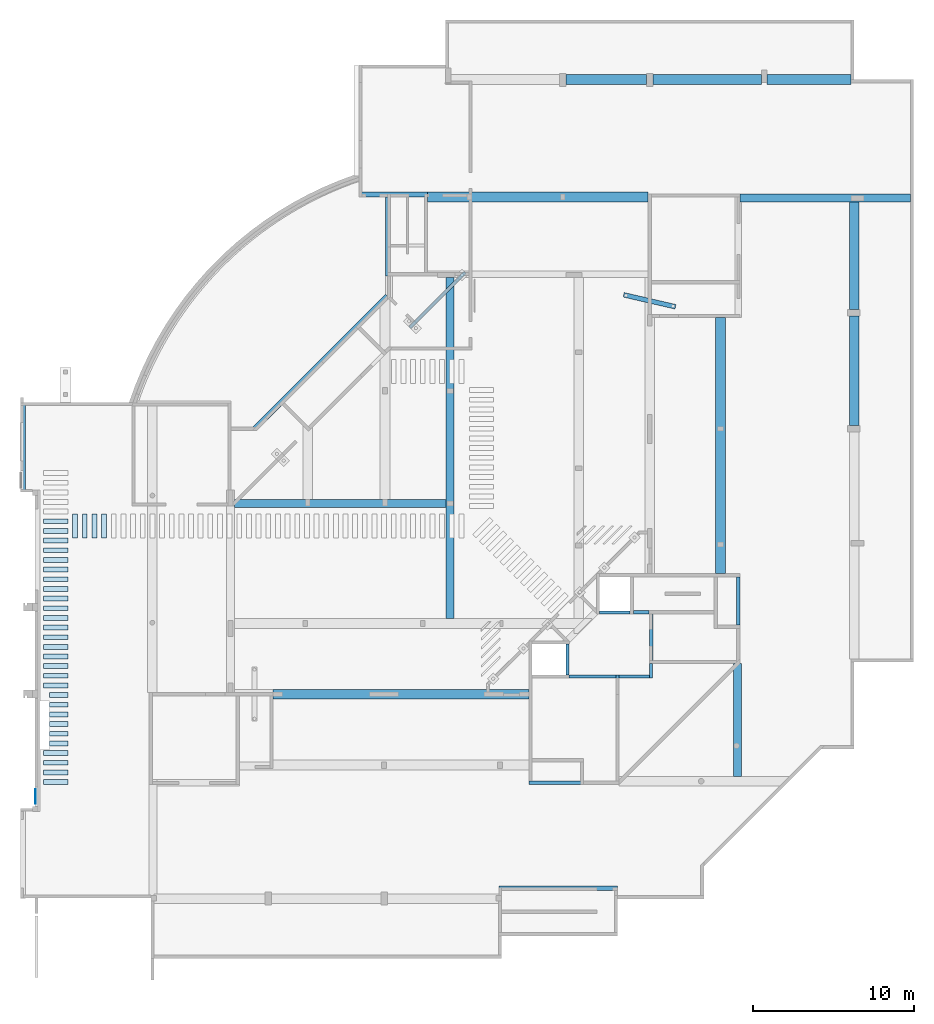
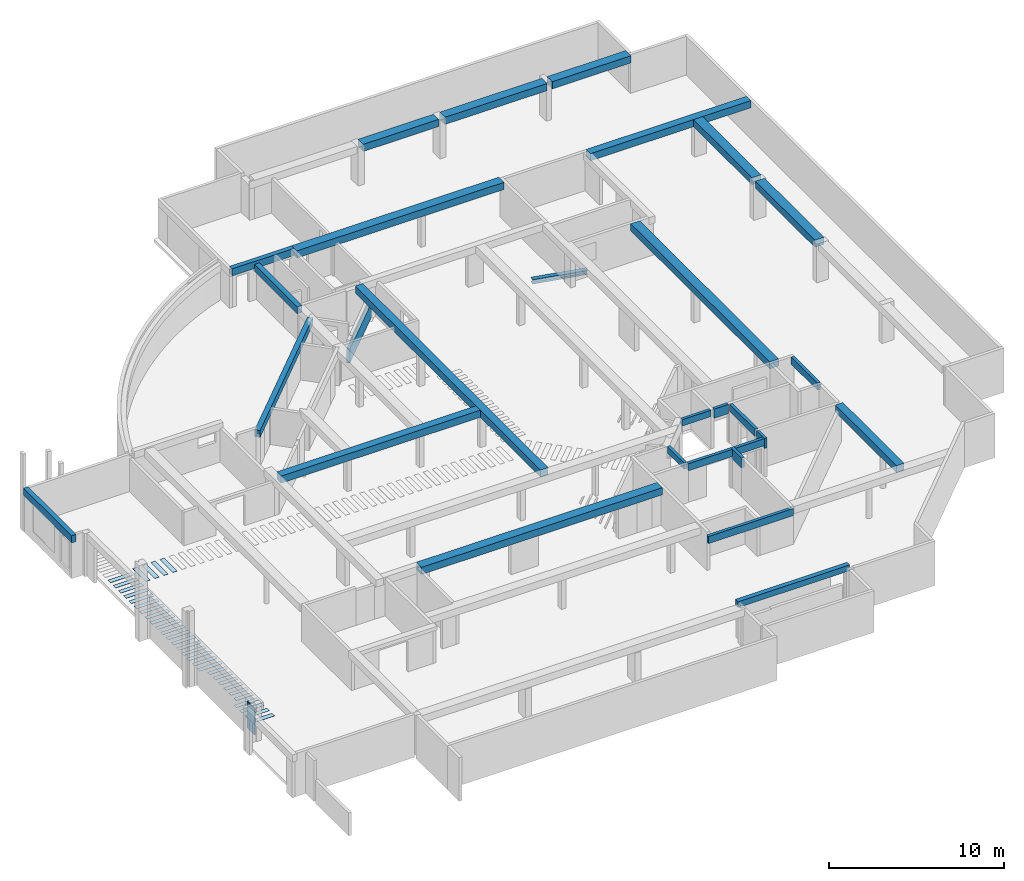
# One storey, part 2 of 12: 32 slabs, 29 beams, 1 plate.
"""IFC4X3_ADD2 building model written with IfcOpenShell, lengths in millimetres."""

from ifc_helpers import new_model, si_unit, direction, frame, frame_2d, origin_with_axes, origin_2d_with_axis, place, context, subcontext, project, spatial, polyline, rectangle, outline, extrude, source, transform, mapped, material, type_object, type_shapes, element, save


model = new_model("IFC4X3_ADD2")

# Units and contexts
model_context = context("Model", 3, precision=1e-05, world=origin_with_axes(), true_north=direction((0.0, 1.0)))
body_context = subcontext(model_context, "Body", "Model", "MODEL_VIEW")
ifc_project = project(units=[si_unit("LENGTHUNIT", "METRE", prefix="MILLI"), si_unit("AREAUNIT", "SQUARE_METRE"), si_unit("VOLUMEUNIT", "CUBIC_METRE"), si_unit("PLANEANGLEUNIT", "RADIAN"), si_unit("TIMEUNIT", "SECOND"), si_unit("MASSUNIT", "GRAM")], contexts=[model_context])

# Site, building, storey
site_placement = place(None, origin_with_axes())
site = spatial("IfcSite", under=ifc_project, at=site_placement, Name="Site", CompositionType="ELEMENT")
building_placement = place(site_placement, origin_with_axes())
building = spatial("IfcBuilding", under=site, at=building_placement, Name="IFC Building Story")
storey_placement = place(building_placement, frame((0.0, 0.0, -5940.0), z_axis=(0.0, 0.0, 1.0), x_axis=(1.0, 0.0, 0.0)))
storey = spatial("IfcBuildingStorey", under=building, at=storey_placement, Name="K20", Elevation=-5940.0)

# Beams
ifc_material_1 = material(Name="BB_Beton_Bestaand")
beam_type_1 = type_object("IfcBeamType", Name="BB_XX_Betonbalk_ rechthoekig_ center-center_SFB_200 x 500 mm", PredefinedType="NOTDEFINED")
shared_shape_1 = source(origin_with_axes(), body_context, "Body", "SweptSolid", [
    extrude(rectangle(XDim=5599.999999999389, YDim=200.0, at=origin_2d_with_axis()), frame((-17300.00000000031, 7099.999999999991, -3940.0), z_axis=(0.0, 0.0, 1.0), x_axis=(1.0, 0.0, 0.0)), (0.0, 0.0, 1.0), 500.0),
])
type_shapes(beam_type_1, [shared_shape_1])
beam_1_placement = place(storey_placement, frame((0.0, 0.0, 5940.0), z_axis=(0.0, 0.0, 1.0), x_axis=(1.0, 0.0, 0.0)))
element("IfcBeam", 1, at=beam_1_placement, inside=storey, type_object=beam_type_1, material=ifc_material_1, Name="BB_XX_Betonbalk, rechthoekig, center-center_SFB:200 x 500 mm", ObjectType="200 x 500 mm", PredefinedType="BEAM", context=body_context, shape_type="MappedRepresentation", body=[
    mapped(shared_shape_1, transform((0.0, 0.0, 0.0))),
])
beam_type_2 = type_object("IfcBeamType", Name="BB_XX_Betonbalk_ rechthoekig_ center-center_SFB_500 x 500 mm1", PredefinedType="NOTDEFINED")
shared_shape_2 = source(origin_with_axes(), body_context, "Body", "SweptSolid", [
    extrude(rectangle(XDim=6999.99999999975, YDim=500.0, at=frame_2d((0.0, 0.0), x_axis=(0.0, 1.0))), frame((-7149.999999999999, 11000.00000000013, -3740.0), z_axis=(0.0, 0.0, 1.0), x_axis=(1.0, 0.0, 0.0)), (0.0, 0.0, 1.0), 500.0),
])
type_shapes(beam_type_2, [shared_shape_2])
beam_2_placement = place(storey_placement, frame((0.0, 0.0, 5940.0), z_axis=(0.0, 0.0, 1.0), x_axis=(1.0, 0.0, 0.0)))
element("IfcBeam", 2, at=beam_2_placement, inside=storey, type_object=beam_type_2, material=ifc_material_1, Name="BB_XX_Betonbalk, rechthoekig, center-center_SFB:500 x 500 mm", ObjectType="500 x 500 mm", PredefinedType="BEAM", context=body_context, shape_type="MappedRepresentation", body=[
    mapped(shared_shape_2, transform((0.0, 0.0, 0.0))),
])
beam_type_3 = type_object("IfcBeamType", Name="BB_XX_Betonbalk_ rechthoekig_ center-center_SFB_190 x 450 mm", PredefinedType="NOTDEFINED")
shared_shape_3 = source(origin_with_axes(), body_context, "Body", "SweptSolid", [
    extrude(rectangle(XDim=1900.0, YDim=190.0, at=origin_2d_with_axis()), frame((0.0, 0.0, -225.0), z_axis=(0.0, 0.0, 1.0), x_axis=(1.0, 0.0, 0.0)), (0.0, 0.0, 1.0), 450.0),
])
type_shapes(beam_type_3, [shared_shape_3])
beam_3_placement = place(storey_placement, frame((-14765.0, 17695.0, 2475.0), z_axis=(0.0, 0.0, 1.0), x_axis=(-1.0, 0.0, 0.0)))
element("IfcBeam", 3, at=beam_3_placement, inside=storey, type_object=beam_type_3, material=ifc_material_1, Name="BB_XX_Betonbalk, rechthoekig, center-center_SFB:190 x 450 mm", ObjectType="190 x 450 mm", PredefinedType="BEAM", context=body_context, shape_type="MappedRepresentation", body=[
    mapped(shared_shape_3, transform((0.0, 0.0, 0.0))),
])
beam_type_4 = type_object("IfcBeamType", Name="BB_XX_Betonbalk_ rechthoekig_ center-center_SFB_200 x 500 mm1", PredefinedType="NOTDEFINED")
shared_shape_4 = source(origin_with_axes(), body_context, "Body", "SweptSolid", [
    extrude(rectangle(XDim=2899.99999999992, YDim=200.0, at=origin_2d_with_axis()), frame((-4.001776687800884e-11, 0.0, -250.0), z_axis=(0.0, 0.0, 1.0), x_axis=(1.0, 0.0, 0.0)), (0.0, 0.0, 1.0), 500.0),
])
type_shapes(beam_type_4, [shared_shape_4])
beam_4_placement = place(storey_placement, frame((-12500.0, 16150.0, 2450.0), z_axis=(0.0, 0.0, 1.0), x_axis=(0.0, -1.0, 0.0)))
element("IfcBeam", 4, at=beam_4_placement, inside=storey, type_object=beam_type_4, material=ifc_material_1, Name="BB_XX_Betonbalk, rechthoekig, center-center_SFB:200 x 500 mm", ObjectType="200 x 500 mm", PredefinedType="BEAM", context=body_context, shape_type="MappedRepresentation", body=[
    mapped(shared_shape_4, transform((0.0, 0.0, 0.0))),
])
beam_type_5 = type_object("IfcBeamType", Name="BB_XX_Betonbalk_ rechthoekig_ center-center_SFB_200 x 500 mm3", PredefinedType="NOTDEFINED")
shared_shape_5 = source(origin_with_axes(), body_context, "Body", "SweptSolid", [
    extrude(rectangle(XDim=2899.99999999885, YDim=200.0, at=origin_2d_with_axis()), frame((-5.750280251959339e-10, 0.0, -250.0), z_axis=(0.0, 0.0, 1.0), x_axis=(1.0, 0.0, 0.0)), (0.0, 0.0, 1.0), 500.0),
])
type_shapes(beam_type_5, [shared_shape_5])
beam_5_placement = place(storey_placement, frame((-16150.0, 13715.0, 2450.0), z_axis=(0.0, 0.0, 1.0), x_axis=(1.0, 0.0, 0.0)))
element("IfcBeam", 5, at=beam_5_placement, inside=storey, type_object=beam_type_5, material=ifc_material_1, Name="BB_XX_Betonbalk, rechthoekig, center-center_SFB:200 x 500 mm", ObjectType="200 x 500 mm", PredefinedType="BEAM", context=body_context, shape_type="MappedRepresentation", body=[
    mapped(shared_shape_5, transform((0.0, 0.0, 0.0))),
])
beam_type_6 = type_object("IfcBeamType", Name="BB_XX_Betonbalk_ rechthoekig_ center-center_SFB_200 x 700 mm", PredefinedType="NOTDEFINED")
shared_shape_6 = source(origin_with_axes(), body_context, "Body", "SweptSolid", [
    extrude(rectangle(XDim=1214.9999999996, YDim=200.0, at=frame_2d((0.0, 0.0), x_axis=(0.0, 1.0))), frame((-14600.0, 13207.4999999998, -3940.0), z_axis=(0.0, 0.0, 1.0), x_axis=(1.0, 0.0, 0.0)), (0.0, 0.0, 1.0), 700.0),
])
type_shapes(beam_type_6, [shared_shape_6])
beam_6_placement = place(storey_placement, frame((0.0, 0.0, 5940.0), z_axis=(0.0, 0.0, 1.0), x_axis=(1.0, 0.0, 0.0)))
element("IfcBeam", 6, at=beam_6_placement, inside=storey, type_object=beam_type_6, material=ifc_material_1, Name="BB_XX_Betonbalk, rechthoekig, center-center_SFB:200 x 700 mm", ObjectType="200 x 700 mm", PredefinedType="BEAM", context=body_context, shape_type="MappedRepresentation", body=[
    mapped(shared_shape_6, transform((0.0, 0.0, 0.0))),
])
beam_type_7 = type_object("IfcBeamType", Name="BB_XX_Betonbalk_ rechthoekig_ center-center_SFB_200 x 500 mm5", PredefinedType="NOTDEFINED")
shared_shape_7 = source(origin_with_axes(), body_context, "Body", "SweptSolid", [
    extrude(rectangle(XDim=1900.00000000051, YDim=200.0, at=origin_2d_with_axis()), frame((2.549995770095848e-10, 0.0, -250.0), z_axis=(0.0, 0.0, 1.0), x_axis=(1.0, 0.0, 0.0)), (0.0, 0.0, 1.0), 500.0),
])
type_shapes(beam_type_7, [shared_shape_7])
beam_7_placement = place(storey_placement, frame((-13550.0, 13715.0, 2450.0), z_axis=(0.0, 0.0, 1.0), x_axis=(1.0, 0.0, 0.0)))
element("IfcBeam", 7, at=beam_7_placement, inside=storey, type_object=beam_type_7, material=ifc_material_1, Name="BB_XX_Betonbalk, rechthoekig, center-center_SFB:200 x 500 mm", ObjectType="200 x 500 mm", PredefinedType="BEAM", context=body_context, shape_type="MappedRepresentation", body=[
    mapped(shared_shape_7, transform((0.0, 0.0, 0.0))),
])
beam_type_8 = type_object("IfcBeamType", Name="BB_XX_Betonbalk_ rechthoekig_ center-center_SFB_190 x 700 mm", PredefinedType="NOTDEFINED")
shared_shape_8 = source(origin_with_axes(), body_context, "Body", "SweptSolid", [
    extrude(rectangle(XDim=885.000000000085, YDim=190.0, at=origin_2d_with_axis()), frame((0.0, 0.0, -350.0), z_axis=(0.0, 0.0, 1.0), x_axis=(1.0, 0.0, 0.0)), (0.0, 0.0, 1.0), 700.0),
])
type_shapes(beam_type_8, [shared_shape_8])
beam_8_placement = place(storey_placement, frame((-12505.0, 14057.4999999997, 2350.0), z_axis=(0.0, 0.0, 1.0), x_axis=(0.0, -1.0, 0.0)))
element("IfcBeam", 8, at=beam_8_placement, inside=storey, type_object=beam_type_8, material=ifc_material_1, Name="BB_XX_Betonbalk, rechthoekig, center-center_SFB:190 x 700 mm", ObjectType="190 x 700 mm", PredefinedType="BEAM", context=body_context, shape_type="MappedRepresentation", body=[
    mapped(shared_shape_8, transform((0.0, 0.0, 0.0))),
])
beam_type_9 = type_object("IfcBeamType", Name="BB_XX_Betonbalk_ rechthoekig_ center-center_SFB_200 x 640 mm", PredefinedType="NOTDEFINED")
shared_shape_9 = source(origin_with_axes(), body_context, "Body", "SweptSolid", [
    extrude(rectangle(XDim=960.0000000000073, YDim=200.0, at=origin_2d_with_axis()), frame((-13135.0, 17700.0, -3880.0), z_axis=(0.0, 0.0, 1.0), x_axis=(1.0, 0.0, 0.0)), (0.0, 0.0, 1.0), 639.9999999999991),
])
type_shapes(beam_type_9, [shared_shape_9])
beam_9_placement = place(storey_placement, frame((0.0, 0.0, 5940.0), z_axis=(0.0, 0.0, 1.0), x_axis=(1.0, 0.0, 0.0)))
element("IfcBeam", 9, at=beam_9_placement, inside=storey, type_object=beam_type_9, material=ifc_material_1, Name="BB_XX_Betonbalk, rechthoekig, center-center_SFB:200 x 640 mm", ObjectType="200 x 640 mm", PredefinedType="BEAM", context=body_context, shape_type="MappedRepresentation", body=[
    mapped(shared_shape_9, transform((0.0, 0.0, 0.0))),
])
beam_type_10 = type_object("IfcBeamType", Name="BB_XX_Betonbalk_ rechthoekig_ center-center_SFB_600 x 500 mm5", PredefinedType="NOTDEFINED")
shared_shape_10 = source(origin_with_axes(), body_context, "Body", "SweptSolid", [
    extrude(rectangle(XDim=15900.0000000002, YDim=599.9999999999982, at=origin_2d_with_axis()), frame((-28049.9999999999, 12599.99999999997, -3740.0), z_axis=(0.0, 0.0, 1.0), x_axis=(1.0, 0.0, 0.0)), (0.0, 0.0, 1.0), 500.0),
])
type_shapes(beam_type_10, [shared_shape_10])
beam_10_placement = place(storey_placement, frame((0.0, 0.0, 5940.0), z_axis=(0.0, 0.0, 1.0), x_axis=(1.0, 0.0, 0.0)))
element("IfcBeam", 10, at=beam_10_placement, inside=storey, type_object=beam_type_10, material=ifc_material_1, Name="BB_XX_Betonbalk, rechthoekig, center-center_SFB:600 x 500 mm", ObjectType="600 x 500 mm", PredefinedType="BEAM", context=body_context, shape_type="MappedRepresentation", body=[
    mapped(shared_shape_10, transform((0.0, 0.0, 0.0))),
])
beam_type_11 = type_object("IfcBeamType", Name="BB_XX_Betonbalk_ rechthoekig_ center-center_SFB_500 x 500 mm5", PredefinedType="NOTDEFINED")
shared_shape_11 = source(origin_with_axes(), body_context, "Body", "SweptSolid", [
    extrude(rectangle(XDim=13150.0000000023, YDim=500.0, at=origin_2d_with_axis()), frame((-31824.99999999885, 24449.99999999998, -3740.0), z_axis=(0.0, 0.0, 1.0), x_axis=(1.0, 0.0, 0.0)), (0.0, 0.0, 1.0), 500.0),
])
type_shapes(beam_type_11, [shared_shape_11])
beam_11_placement = place(storey_placement, frame((0.0, 0.0, 5940.0), z_axis=(0.0, 0.0, 1.0), x_axis=(1.0, 0.0, 0.0)))
element("IfcBeam", 11, at=beam_11_placement, inside=storey, type_object=beam_type_11, material=ifc_material_1, Name="BB_XX_Betonbalk, rechthoekig, center-center_SFB:500 x 500 mm", ObjectType="500 x 500 mm", PredefinedType="BEAM", context=body_context, shape_type="MappedRepresentation", body=[
    mapped(shared_shape_11, transform((0.0, 0.0, 0.0))),
])
beam_type_12 = type_object("IfcBeamType", Name="BB_XX_Betonbalk_ rechthoekig_ center-center_SFB_500 x 500 mm7", PredefinedType="NOTDEFINED")
shared_shape_12 = source(origin_with_axes(), body_context, "Body", "SweptSolid", [
    extrude(rectangle(XDim=21200.0000000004, YDim=500.0, at=frame_2d((0.0, 0.0), x_axis=(0.0, 1.0))), frame((-25000.0, 27899.9999999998, -3740.0), z_axis=(0.0, 0.0, 1.0), x_axis=(1.0, 0.0, 0.0)), (0.0, 0.0, 1.0), 500.0),
])
type_shapes(beam_type_12, [shared_shape_12])
beam_12_placement = place(storey_placement, frame((0.0, 0.0, 5940.0), z_axis=(0.0, 0.0, 1.0), x_axis=(1.0, 0.0, 0.0)))
element("IfcBeam", 12, at=beam_12_placement, inside=storey, type_object=beam_type_12, material=ifc_material_1, Name="BB_XX_Betonbalk, rechthoekig, center-center_SFB:500 x 500 mm", ObjectType="500 x 500 mm", PredefinedType="BEAM", context=body_context, shape_type="MappedRepresentation", body=[
    mapped(shared_shape_12, transform((0.0, 0.0, 0.0))),
])
beam_type_13 = type_object("IfcBeamType", Name="BB_XX_Betonbalk_ rechthoekig_ center-center_SFB_320 x 490 mm1", PredefinedType="NOTDEFINED")
shared_shape_13 = source(origin_with_axes(), body_context, "Body", "SweptSolid", [
    extrude(rectangle(XDim=11656.1118172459, YDim=319.9999999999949, at=frame_2d((0.0, 0.0), x_axis=(0.7071067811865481, 0.7071067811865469))), frame((-33021.05785412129, 33218.21054734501, -3930.0), z_axis=(0.0, 0.0, 1.0), x_axis=(1.0, 0.0, 0.0)), (0.0, 0.0, 1.0), 490.000000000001),
])
type_shapes(beam_type_13, [shared_shape_13])
beam_13_placement = place(storey_placement, frame((0.0, 0.0, 5940.0), z_axis=(0.0, 0.0, 1.0), x_axis=(1.0, 0.0, 0.0)))
element("IfcBeam", 13, at=beam_13_placement, inside=storey, type_object=beam_type_13, material=ifc_material_1, Name="BB_XX_Betonbalk, rechthoekig, center-center_SFB:320 x 490 mm", ObjectType="320 x 490 mm", PredefinedType="BEAM", context=body_context, shape_type="MappedRepresentation", body=[
    mapped(shared_shape_13, transform((0.0, 0.0, 0.0))),
])
beam_type_14 = type_object("IfcBeamType", Name="BB_XX_Betonbalk_ rechthoekig_ center-center_SFB_600 x 500 mm15", PredefinedType="NOTDEFINED")
shared_shape_14 = source(origin_with_axes(), body_context, "Body", "SweptSolid", [
    extrude(rectangle(XDim=13699.9959341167, YDim=600.0, at=origin_2d_with_axis()), frame((-19550.00203294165, 43499.99999999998, -3740.0), z_axis=(0.0, 0.0, 1.0), x_axis=(1.0, 0.0, 0.0)), (0.0, 0.0, 1.0), 500.0),
])
type_shapes(beam_type_14, [shared_shape_14])
beam_14_placement = place(storey_placement, frame((0.0, 0.0, 5940.0), z_axis=(0.0, 0.0, 1.0), x_axis=(1.0, 0.0, 0.0)))
element("IfcBeam", 14, at=beam_14_placement, inside=storey, type_object=beam_type_14, material=ifc_material_1, Name="BB_XX_Betonbalk, rechthoekig, center-center_SFB:600 x 500 mm", ObjectType="600 x 500 mm", PredefinedType="BEAM", context=body_context, shape_type="MappedRepresentation", body=[
    mapped(shared_shape_14, transform((0.0, 0.0, 0.0))),
])
beam_type_15 = type_object("IfcBeamType", Name="BB_XX_Betonbalk_ rechthoekig_ center-center_SFB_300 x 500 mm1", PredefinedType="NOTDEFINED")
shared_shape_15 = source(origin_with_axes(), body_context, "Body", "SweptSolid", [
    extrude(rectangle(XDim=4099.999999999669, YDim=300.0, at=origin_2d_with_axis()), frame((-28450.00000000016, 43649.99999999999, -3740.0), z_axis=(0.0, 0.0, 1.0), x_axis=(1.0, 0.0, 0.0)), (0.0, 0.0, 1.0), 500.0),
])
type_shapes(beam_type_15, [shared_shape_15])
beam_15_placement = place(storey_placement, frame((0.0, 0.0, 5940.0), z_axis=(0.0, 0.0, 1.0), x_axis=(1.0, 0.0, 0.0)))
element("IfcBeam", 15, at=beam_15_placement, inside=storey, type_object=beam_type_15, material=ifc_material_1, Name="BB_XX_Betonbalk, rechthoekig, center-center_SFB:300 x 500 mm", ObjectType="300 x 500 mm", PredefinedType="BEAM", context=body_context, shape_type="MappedRepresentation", body=[
    mapped(shared_shape_15, transform((0.0, 0.0, 0.0))),
])
beam_type_16 = type_object("IfcBeamType", Name="BB_XX_Betonbalk_ rechthoekig_ center-center_SFB_320 x 490 mm5", PredefinedType="NOTDEFINED")
shared_shape_16 = source(origin_with_axes(), body_context, "Body", "SweptSolid", [
    extrude(outline(polyline([(-226.6666666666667, 3333.336043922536), (263.3333333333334, 3333.336043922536), (263.3333333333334, -1566.668021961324), (-36.66666666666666, -1566.668021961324), (-36.66666666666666, -1766.668021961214), (-226.6666666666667, -1766.668021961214), (-226.6666666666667, 3333.336043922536)])), frame((0.0, 3333.336043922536, 226.6666666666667), z_axis=(1.0, 0.0, 0.0), x_axis=(0.0, 0.0, 1.0)), (0.0, 0.0, 1.0), 320.0),
])
type_shapes(beam_type_16, [shared_shape_16])
beam_16_placement = place(storey_placement, frame((-29020.0, 38599.9959341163, 2010.0), z_axis=(0.0, 0.0, 1.0), x_axis=(1.0, 0.0, 0.0)))
element("IfcBeam", 16, at=beam_16_placement, inside=storey, type_object=beam_type_16, material=ifc_material_1, Name="BB_XX_Betonbalk, rechthoekig, center-center_SFB:320 x 490 mm", ObjectType="320 x 490 mm 2", PredefinedType="BEAM", context=body_context, shape_type="MappedRepresentation", body=[
    mapped(shared_shape_16, transform((0.0, 0.0, 0.0))),
])
beam_type_17 = type_object("IfcBeamType", Name="BB_XX_Betonbalk_ rechthoekig_ center-center_SFB_600 x 500 mm21", PredefinedType="NOTDEFINED")
shared_shape_17 = source(origin_with_axes(), body_context, "Body", "SweptSolid", [
    extrude(rectangle(XDim=15900.0000000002, YDim=600.0, at=frame_2d((0.0, 0.0), x_axis=(0.0, 1.0))), frame((-8200.0, 28049.9999999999, -3740.0), z_axis=(0.0, 0.0, 1.0), x_axis=(1.0, 0.0, 0.0)), (0.0, 0.0, 1.0), 500.0),
])
type_shapes(beam_type_17, [shared_shape_17])
beam_17_placement = place(storey_placement, frame((0.0, 0.0, 5940.0), z_axis=(0.0, 0.0, 1.0), x_axis=(1.0, 0.0, 0.0)))
element("IfcBeam", 17, at=beam_17_placement, inside=storey, type_object=beam_type_17, material=ifc_material_1, Name="BB_XX_Betonbalk, rechthoekig, center-center_SFB:600 x 500 mm", ObjectType="600 x 500 mm", PredefinedType="BEAM", context=body_context, shape_type="MappedRepresentation", body=[
    mapped(shared_shape_17, transform((0.0, 0.0, 0.0))),
])
beam_type_18 = type_object("IfcBeamType", Name="BB_XX_Betonbalk_ rechthoekig_ center-center_SFB_300 x 410 mm", PredefinedType="NOTDEFINED")
shared_shape_18 = source(origin_with_axes(), body_context, "Body", "SweptSolid", [
    extrude(rectangle(XDim=7375.0, YDim=300.0, at=origin_2d_with_axis()), frame((-18287.5, 544.999999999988, -3750.0), z_axis=(0.0, 0.0, 1.0), x_axis=(1.0, 0.0, 0.0)), (0.0, 0.0, 1.0), 410.0),
])
type_shapes(beam_type_18, [shared_shape_18])
beam_18_placement = place(storey_placement, frame((0.0, 0.0, 5940.0), z_axis=(0.0, 0.0, 1.0), x_axis=(1.0, 0.0, 0.0)))
element("IfcBeam", 18, at=beam_18_placement, inside=storey, type_object=beam_type_18, material=ifc_material_1, Name="BB_XX_Betonbalk, rechthoekig, center-center_SFB:300 x 410 mm", ObjectType="300 x 410 mm", PredefinedType="BEAM", context=body_context, shape_type="MappedRepresentation", body=[
    mapped(shared_shape_18, transform((0.0, 0.0, 0.0))),
])
beam_type_19 = type_object("IfcBeamType", Name="BB_XX_Betonbalk_ rechthoekig_ center-center_SFB_600 x 500 mm23", PredefinedType="NOTDEFINED")
shared_shape_19 = source(origin_with_axes(), body_context, "Body", "SweptSolid", [
    extrude(rectangle(XDim=6699.9999999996, YDim=600.0, at=frame_2d((0.0, 0.0), x_axis=(0.0, 1.0))), frame((105.0, 39850.0000000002, -3740.0), z_axis=(0.0, 0.0, 1.0), x_axis=(1.0, 0.0, 0.0)), (0.0, 0.0, 1.0), 500.0),
])
type_shapes(beam_type_19, [shared_shape_19])
beam_19_placement = place(storey_placement, frame((0.0, 0.0, 5940.0), z_axis=(0.0, 0.0, 1.0), x_axis=(1.0, 0.0, 0.0)))
element("IfcBeam", 19, at=beam_19_placement, inside=storey, type_object=beam_type_19, material=ifc_material_1, Name="BB_XX_Betonbalk, rechthoekig, center-center_SFB:600 x 500 mm", ObjectType="600 x 500 mm", PredefinedType="BEAM", context=body_context, shape_type="MappedRepresentation", body=[
    mapped(shared_shape_19, transform((0.0, 0.0, 0.0))),
])
beam_type_20 = type_object("IfcBeamType", Name="BB_XX_Betonbalk_ rechthoekig_ center-center_SFB_500 x 500 mm9", PredefinedType="NOTDEFINED")
shared_shape_20 = source(origin_with_axes(), body_context, "Body", "SweptSolid", [
    extrude(rectangle(XDim=10600.0402063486, YDim=499.9999999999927, at=origin_2d_with_axis()), frame((5300.0201031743, 250.0000000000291, 0.0), z_axis=(0.0, 0.0, 1.0), x_axis=(1.0, 0.0, 0.0)), (0.0, 0.0, 1.0), 500.0),
])
type_shapes(beam_type_20, [shared_shape_20])
beam_20_placement = place(storey_placement, frame((-7000.0, 43200.0, 2200.0), z_axis=(0.0, 0.0, 1.0), x_axis=(1.0, 0.0, 0.0)))
element("IfcBeam", 20, at=beam_20_placement, inside=storey, type_object=beam_type_20, material=ifc_material_1, Name="BB_XX_Betonbalk, rechthoekig, center-center_SFB:500 x 500 mm", ObjectType="500 x 500 mm", PredefinedType="BEAM", context=body_context, shape_type="MappedRepresentation", body=[
    mapped(shared_shape_20, transform((0.0, 0.0, 0.0))),
])
beam_type_21 = type_object("IfcBeamType", Name="BB_XX_Betonbalk_ rechthoekig_ center-center_SFB_600 x 500 mm25", PredefinedType="NOTDEFINED")
shared_shape_21 = source(origin_with_axes(), body_context, "Body", "SweptSolid", [
    extrude(rectangle(XDim=6800.000000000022, YDim=600.0, at=frame_2d((0.0, 0.0), x_axis=(0.0, 1.0))), frame((105.0, 32699.99999999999, -3740.0), z_axis=(0.0, 0.0, 1.0), x_axis=(1.0, 0.0, 0.0)), (0.0, 0.0, 1.0), 500.0),
])
type_shapes(beam_type_21, [shared_shape_21])
beam_21_placement = place(storey_placement, frame((0.0, 0.0, 5940.0), z_axis=(0.0, 0.0, 1.0), x_axis=(1.0, 0.0, 0.0)))
element("IfcBeam", 21, at=beam_21_placement, inside=storey, type_object=beam_type_21, material=ifc_material_1, Name="BB_XX_Betonbalk, rechthoekig, center-center_SFB:600 x 500 mm", ObjectType="600 x 500 mm", PredefinedType="BEAM", context=body_context, shape_type="MappedRepresentation", body=[
    mapped(shared_shape_21, transform((0.0, 0.0, 0.0))),
])
beam_type_22 = type_object("IfcBeamType", Name="BB_XX_Betonbalk_ rechthoekig_ center-center_SFB_200 x 500 mm7", PredefinedType="NOTDEFINED")
shared_shape_22 = source(origin_with_axes(), body_context, "Body", "SweptSolid", [
    extrude(rectangle(XDim=3000.00000000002, YDim=200.0, at=origin_2d_with_axis()), frame((-4.001776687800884e-11, 0.0, -250.0), z_axis=(0.0, 0.0, 1.0), x_axis=(1.0, 0.0, 0.0)), (0.0, 0.0, 1.0), 500.0),
])
type_shapes(beam_type_22, [shared_shape_22])
beam_22_placement = place(storey_placement, frame((-7100.0, 18400.0, 2450.0), z_axis=(0.0, 0.0, 1.0), x_axis=(0.0, -1.0, 0.0)))
element("IfcBeam", 22, at=beam_22_placement, inside=storey, type_object=beam_type_22, material=ifc_material_1, Name="BB_XX_Betonbalk, rechthoekig, center-center_SFB:200 x 500 mm", ObjectType="200 x 500 mm", PredefinedType="BEAM", context=body_context, shape_type="MappedRepresentation", body=[
    mapped(shared_shape_22, transform((0.0, 0.0, 0.0))),
])
beam_type_23 = type_object("IfcBeamType", Name="BB_XX_Betonbalk_ rechthoekig_ center-center_SFB_190 x 450 mm1", PredefinedType="NOTDEFINED")
shared_shape_23 = source(origin_with_axes(), body_context, "Body", "SweptSolid", [
    extrude(rectangle(XDim=1900.00000000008, YDim=190.0, at=origin_2d_with_axis()), frame((0.0, 0.0, -225.0), z_axis=(0.0, 0.0, 1.0), x_axis=(1.0, 0.0, 0.0)), (0.0, 0.0, 1.0), 450.0),
])
type_shapes(beam_type_23, [shared_shape_23])
beam_23_placement = place(storey_placement, frame((-17695.0, 14765.0, 2475.0), z_axis=(0.0, 0.0, 1.0), x_axis=(0.0, -1.0, 0.0)))
element("IfcBeam", 23, at=beam_23_placement, inside=storey, type_object=beam_type_23, material=ifc_material_1, Name="BB_XX_Betonbalk, rechthoekig, center-center_SFB:190 x 450 mm", ObjectType="190 x 450 mm", PredefinedType="BEAM", context=body_context, shape_type="MappedRepresentation", body=[
    mapped(shared_shape_23, transform((0.0, 0.0, 0.0))),
])
beam_type_24 = type_object("IfcBeamType", Name="BB_XX_Betonbalk_ rechthoekig_ center-center_SFB_300 x 500 mm5", PredefinedType="NOTDEFINED")
shared_shape_24 = source(origin_with_axes(), body_context, "Body", "SweptSolid", [
    extrude(rectangle(XDim=5480.0, YDim=300.0, at=frame_2d((0.0, 0.0), x_axis=(0.0, 1.0))), frame((-51545.0, 27900.0, -3840.0), z_axis=(0.0, 0.0, 1.0), x_axis=(1.0, 0.0, 0.0)), (0.0, 0.0, 1.0), 500.0),
])
type_shapes(beam_type_24, [shared_shape_24])
beam_24_placement = place(storey_placement, frame((0.0, 0.0, 5940.0), z_axis=(0.0, 0.0, 1.0), x_axis=(1.0, 0.0, 0.0)))
element("IfcBeam", 24, at=beam_24_placement, inside=storey, type_object=beam_type_24, material=ifc_material_1, Name="BB_XX_Betonbalk, rechthoekig, center-center_SFB:300 x 500 mm", ObjectType="300 x 500 mm", PredefinedType="BEAM", context=body_context, shape_type="MappedRepresentation", body=[
    mapped(shared_shape_24, transform((0.0, 0.0, 0.0))),
])
beam_type_25 = type_object("IfcBeamType", Name="BB_XX_Betonbalk_ rechthoekig_ center-center_SFB_600 x 500 mm31", PredefinedType="NOTDEFINED")
shared_shape_25 = source(origin_with_axes(), body_context, "Body", "SweptSolid", [
    extrude(rectangle(XDim=4999.999999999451, YDim=600.0000000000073, at=origin_2d_with_axis()), frame((-15299.33138680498, 50804.99999999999, -3740.0), z_axis=(0.0, 0.0, 1.0), x_axis=(1.0, 0.0, 0.0)), (0.0, 0.0, 1.0), 500.0),
])
type_shapes(beam_type_25, [shared_shape_25])
beam_25_placement = place(storey_placement, frame((0.0, 0.0, 5940.0), z_axis=(0.0, 0.0, 1.0), x_axis=(1.0, 0.0, 0.0)))
element("IfcBeam", 25, at=beam_25_placement, inside=storey, type_object=beam_type_25, material=ifc_material_1, Name="BB_XX_Betonbalk, rechthoekig, center-center_SFB:600 x 500 mm", ObjectType="600 x 500 mm", PredefinedType="BEAM", context=body_context, shape_type="MappedRepresentation", body=[
    mapped(shared_shape_25, transform((0.0, 0.0, 0.0))),
])
beam_type_26 = type_object("IfcBeamType", Name="BB_XX_Betonbalk_ rechthoekig_ center-center_SFB_600 x 500 mm33", PredefinedType="NOTDEFINED")
shared_shape_26 = source(origin_with_axes(), body_context, "Body", "SweptSolid", [
    extrude(rectangle(XDim=6754.33138680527, YDim=600.0, at=origin_2d_with_axis()), frame((-9022.165693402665, 50804.99999999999, -3740.0), z_axis=(0.0, 0.0, 1.0), x_axis=(1.0, 0.0, 0.0)), (0.0, 0.0, 1.0), 500.0),
])
type_shapes(beam_type_26, [shared_shape_26])
beam_26_placement = place(storey_placement, frame((0.0, 0.0, 5940.0), z_axis=(0.0, 0.0, 1.0), x_axis=(1.0, 0.0, 0.0)))
element("IfcBeam", 26, at=beam_26_placement, inside=storey, type_object=beam_type_26, material=ifc_material_1, Name="BB_XX_Betonbalk, rechthoekig, center-center_SFB:600 x 500 mm", ObjectType="600 x 500 mm", PredefinedType="BEAM", context=body_context, shape_type="MappedRepresentation", body=[
    mapped(shared_shape_26, transform((0.0, 0.0, 0.0))),
])
beam_type_27 = type_object("IfcBeamType", Name="BB_XX_Betonbalk_ rechthoekig_ center-center_SFB_600 x 500 mm35", PredefinedType="NOTDEFINED")
shared_shape_27 = source(origin_with_axes(), body_context, "Body", "SweptSolid", [
    extrude(rectangle(XDim=5205.0000000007, YDim=600.0, at=origin_2d_with_axis()), frame((-2702.49999999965, 50804.99999999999, -3740.0), z_axis=(0.0, 0.0, 1.0), x_axis=(1.0, 0.0, 0.0)), (0.0, 0.0, 1.0), 500.0),
])
type_shapes(beam_type_27, [shared_shape_27])
beam_27_placement = place(storey_placement, frame((0.0, 0.0, 5940.0), z_axis=(0.0, 0.0, 1.0), x_axis=(1.0, 0.0, 0.0)))
element("IfcBeam", 27, at=beam_27_placement, inside=storey, type_object=beam_type_27, material=ifc_material_1, Name="BB_XX_Betonbalk, rechthoekig, center-center_SFB:600 x 500 mm", ObjectType="600 x 500 mm", PredefinedType="BEAM", context=body_context, shape_type="MappedRepresentation", body=[
    mapped(shared_shape_27, transform((0.0, 0.0, 0.0))),
])
ifc_material_2 = material(Name="Metal - Steel - 345 MPa")
beam_type_28 = type_object("IfcBeamType", Name="VHG_28_HEA Beams_HE280M", PredefinedType="NOTDEFINED")
shared_shape_28 = source(origin_with_axes(), body_context, "Body", "SweptSolid", [
    extrude(outline(polyline([(154.9999999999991, 144.0), (154.9999999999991, -144.0), (122.0, -144.0), (122.0, -9.250000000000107), (-121.9999999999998, -9.250000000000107), (-121.9999999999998, -144.0), (-154.9999999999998, -144.0), (-154.9999999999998, 144.0), (-121.9999999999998, 144.0), (-121.9999999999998, 9.24999999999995), (122.0, 9.249999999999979), (122.0, 144.0), (154.9999999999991, 144.0)])), frame((-1650.651649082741, 0.0, 0.0), z_axis=(1.0, 0.0, 0.0), x_axis=(0.0, 0.0, 1.0)), (0.0, 0.0, 1.0), 3301.303298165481),
])
type_shapes(beam_type_28, [shared_shape_28])
beam_28_placement = place(storey_placement, frame((-12603.8072910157, 37051.5912341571, -145.0), z_axis=(0.0, 0.0, 1.0), x_axis=(0.9742926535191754, -0.2252860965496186, 0.0)))
element("IfcBeam", 28, at=beam_28_placement, inside=storey, type_object=beam_type_28, material=ifc_material_2, Name="VHG_28_HEA Beams:HE280M", ObjectType="HE280M", PredefinedType="BEAM", context=body_context, shape_type="MappedRepresentation", body=[
    mapped(shared_shape_28, transform((0.0, 0.0, 0.0))),
])
beam_type_29 = type_object("IfcBeamType", Name="BB_XX_Betonbalk_ rechthoekig_ center-center_SFB_190 x 1000 mm", PredefinedType="NOTDEFINED")
shared_shape_29 = source(origin_with_axes(), body_context, "Body", "SweptSolid", [
    extrude(rectangle(XDim=4860.049426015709, YDim=190.0000000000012, at=frame_2d((0.0, 0.0), x_axis=(0.7071067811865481, 0.7071067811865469))), frame((-25793.97165123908, 37100.64403188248, -5940.0), z_axis=(0.0, 0.0, 1.0), x_axis=(1.0, 0.0, 0.0)), (0.0, 0.0, 1.0), 1000.0),
])
type_shapes(beam_type_29, [shared_shape_29])
beam_29_placement = place(storey_placement, frame((0.0, 0.0, 5940.0), z_axis=(0.0, 0.0, 1.0), x_axis=(1.0, 0.0, 0.0)))
element("IfcBeam", 29, at=beam_29_placement, inside=storey, type_object=beam_type_29, material=ifc_material_1, Name="BB_XX_Betonbalk, rechthoekig, center-center_SFB:190 x 1000 mm", ObjectType="190 x 1000 mm", PredefinedType="BEAM", context=body_context, shape_type="MappedRepresentation", body=[
    mapped(shared_shape_29, transform((0.0, 0.0, 0.0))),
])

# Plate
ifc_material_3 = material(Name="BB_Metaal_Aluminium_Buitenschrijnwerk")
shared_shape_30 = source(origin_with_axes(), body_context, "Body", "SweptSolid", [
    extrude(rectangle(XDim=1846.000000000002, YDim=888.000000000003, at=frame_2d((0.0, 0.0), x_axis=(0.0, 1.0))), frame((0.0, 0.0, -44.0), z_axis=(0.0, 0.0, 1.0), x_axis=(1.0, 0.0, 0.0)), (0.0, 0.0, 1.0), 44.0),
])
plate_placement = place(storey_placement, frame((-50736.0, 6245.0, 1021.0), z_axis=(1.0, 0.0, 0.0), x_axis=(0.0, 1.0, 0.0)))
element("IfcPlate", 30, at=plate_placement, inside=storey, material=ifc_material_3, Name="BB_07.06_Buitenbeglazing, rechthoekig_GMO:07.04.63#01_Vulpaneel, 44 mm", ObjectType="BB_07.06_Buitenbeglazing, rechthoekig_GMO:07.04.63#01_Vulpaneel, 44 mm", PredefinedType="USERDEFINED", context=body_context, shape_type="MappedRepresentation", body=[
    mapped(shared_shape_30, transform((0.0, 0.0, 0.0))),
])

# Slabs
ifc_material_4 = material(Name="BB_Belijning parkeervakken_Nieuw")
slab_type = type_object("IfcSlabType", Name="BB_Belijning parkeervakken_Nieuw 10", PredefinedType="FLOOR", material=ifc_material_4)
for number, where, z_axis, x_axis, name in (
    (31, (-50249.99999999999, 7000.0, 0.0), (0.0, 0.0, 1.0), (1.0, 0.0, 0.0), "Floor:BB_13.XX_Epoxyverf, belijning zebrapaden"),
    (32, (-50249.99999999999, 7600.0, 0.0), (0.0, 0.0, 1.0), (1.0, 0.0, 0.0), "Floor:BB_13.XX_Epoxyverf, belijning zebrapaden"),
    (33, (-50249.99999999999, 8199.999999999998, 0.0), (0.0, 0.0, 1.0), (1.0, 0.0, 0.0), "Floor:BB_13.XX_Epoxyverf, belijning zebrapaden"),
    (34, (-50249.99999999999, 8800.000000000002, 0.0), (0.0, 0.0, 1.0), (1.0, 0.0, 0.0), "Floor:BB_13.XX_Epoxyverf, belijning zebrapaden"),
):
    element("IfcSlab", number, at=place(storey_placement, frame(where, z_axis=z_axis, x_axis=x_axis)), inside=storey, type_object=slab_type, Name=name, ObjectType="Floor:BB_13.XX_Epoxyverf, belijning zebrapaden", PredefinedType="FLOOR", context=body_context, shape_type="SweptSolid", body=[
        extrude(rectangle(XDim=1499.999999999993, YDim=300.0, at=origin_2d_with_axis()), frame((750.0, 150.0, 0.0), z_axis=(0.0, 0.0, 1.0), x_axis=(1.0, 0.0, 0.0)), (0.0, 0.0, 1.0), 9.99999999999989),
    ])
slab_1_placement = place(storey_placement, frame((-49904.99999999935, 9400.000000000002, 0.0), z_axis=(0.0, 0.0, 1.0), x_axis=(1.0, 0.0, 0.0)))
element("IfcSlab", 35, at=slab_1_placement, inside=storey, type_object=slab_type, Name="Floor:BB_13.XX_Epoxyverf, belijning zebrapaden", ObjectType="Floor:BB_13.XX_Epoxyverf, belijning zebrapaden", PredefinedType="FLOOR", context=body_context, shape_type="SweptSolid", body=[
    extrude(rectangle(XDim=1154.999999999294, YDim=300.0, at=origin_2d_with_axis()), frame((577.4999999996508, 150.0, 0.0), z_axis=(0.0, 0.0, 1.0), x_axis=(1.0, 0.0, 0.0)), (0.0, 0.0, 1.0), 9.99999999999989),
])
slab_2_placement = place(storey_placement, frame((-49904.99999999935, 9999.999999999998, 0.0), z_axis=(0.0, 0.0, 1.0), x_axis=(1.0, 0.0, 0.0)))
element("IfcSlab", 36, at=slab_2_placement, inside=storey, type_object=slab_type, Name="Floor:BB_13.XX_Epoxyverf, belijning zebrapaden", ObjectType="Floor:BB_13.XX_Epoxyverf, belijning zebrapaden", PredefinedType="FLOOR", context=body_context, shape_type="SweptSolid", body=[
    extrude(rectangle(XDim=1154.999999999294, YDim=300.0000000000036, at=origin_2d_with_axis()), frame((577.4999999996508, 150.0, 0.0), z_axis=(0.0, 0.0, 1.0), x_axis=(1.0, 0.0, 0.0)), (0.0, 0.0, 1.0), 9.99999999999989),
])
slab_3_placement = place(storey_placement, frame((-49904.99999999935, 10600.0, 0.0), z_axis=(0.0, 0.0, 1.0), x_axis=(1.0, 0.0, 0.0)))
element("IfcSlab", 37, at=slab_3_placement, inside=storey, type_object=slab_type, Name="Floor:BB_13.XX_Epoxyverf, belijning zebrapaden", ObjectType="Floor:BB_13.XX_Epoxyverf, belijning zebrapaden", PredefinedType="FLOOR", context=body_context, shape_type="SweptSolid", body=[
    extrude(rectangle(XDim=1154.999999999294, YDim=300.0, at=origin_2d_with_axis()), frame((577.4999999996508, 150.0, 0.0), z_axis=(0.0, 0.0, 1.0), x_axis=(1.0, 0.0, 0.0)), (0.0, 0.0, 1.0), 9.99999999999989),
])
slab_4_placement = place(storey_placement, frame((-49904.99999999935, 11200.0, 0.0), z_axis=(0.0, 0.0, 1.0), x_axis=(1.0, 0.0, 0.0)))
element("IfcSlab", 38, at=slab_4_placement, inside=storey, type_object=slab_type, Name="Floor:BB_13.XX_Epoxyverf, belijning zebrapaden", ObjectType="Floor:BB_13.XX_Epoxyverf, belijning zebrapaden", PredefinedType="FLOOR", context=body_context, shape_type="SweptSolid", body=[
    extrude(rectangle(XDim=1154.999999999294, YDim=300.0000000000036, at=origin_2d_with_axis()), frame((577.4999999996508, 150.0, 0.0), z_axis=(0.0, 0.0, 1.0), x_axis=(1.0, 0.0, 0.0)), (0.0, 0.0, 1.0), 9.99999999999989),
])
slab_5_placement = place(storey_placement, frame((-49904.99999999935, 11800.0, 0.0), z_axis=(0.0, 0.0, 1.0), x_axis=(1.0, 0.0, 0.0)))
element("IfcSlab", 39, at=slab_5_placement, inside=storey, type_object=slab_type, Name="Floor:BB_13.XX_Epoxyverf, belijning zebrapaden", ObjectType="Floor:BB_13.XX_Epoxyverf, belijning zebrapaden", PredefinedType="FLOOR", context=body_context, shape_type="SweptSolid", body=[
    extrude(rectangle(XDim=1154.999999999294, YDim=300.0, at=origin_2d_with_axis()), frame((577.4999999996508, 150.0, 0.0), z_axis=(0.0, 0.0, 1.0), x_axis=(1.0, 0.0, 0.0)), (0.0, 0.0, 1.0), 9.99999999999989),
])
slab_6_placement = place(storey_placement, frame((-49904.99999999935, 12400.0, 0.0), z_axis=(0.0, 0.0, 1.0), x_axis=(1.0, 0.0, 0.0)))
element("IfcSlab", 40, at=slab_6_placement, inside=storey, type_object=slab_type, Name="Floor:BB_13.XX_Epoxyverf, belijning zebrapaden", ObjectType="Floor:BB_13.XX_Epoxyverf, belijning zebrapaden", PredefinedType="FLOOR", context=body_context, shape_type="SweptSolid", body=[
    extrude(rectangle(XDim=1154.999999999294, YDim=300.0000000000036, at=origin_2d_with_axis()), frame((577.4999999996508, 150.0, 0.0), z_axis=(0.0, 0.0, 1.0), x_axis=(1.0, 0.0, 0.0)), (0.0, 0.0, 1.0), 9.99999999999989),
])
for number, where, z_axis, x_axis, name in (
    (41, (-50249.99999999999, 13000.0, 0.0), (0.0, 0.0, 1.0), (1.0, 0.0, 0.0), "Floor:BB_13.XX_Epoxyverf, belijning zebrapaden"),
    (42, (-50249.99999999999, 13600.0, 0.0), (0.0, 0.0, 1.0), (1.0, 0.0, 0.0), "Floor:BB_13.XX_Epoxyverf, belijning zebrapaden"),
    (43, (-50249.99999999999, 14200.0, 0.0), (0.0, 0.0, 1.0), (1.0, 0.0, 0.0), "Floor:BB_13.XX_Epoxyverf, belijning zebrapaden"),
    (44, (-50249.99999999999, 14800.0, 0.0), (0.0, 0.0, 1.0), (1.0, 0.0, 0.0), "Floor:BB_13.XX_Epoxyverf, belijning zebrapaden"),
    (45, (-50249.99999999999, 15400.0, 0.0), (0.0, 0.0, 1.0), (1.0, 0.0, 0.0), "Floor:BB_13.XX_Epoxyverf, belijning zebrapaden"),
    (46, (-50249.99999999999, 16000.0, 0.0), (0.0, 0.0, 1.0), (1.0, 0.0, 0.0), "Floor:BB_13.XX_Epoxyverf, belijning zebrapaden"),
):
    element("IfcSlab", number, at=place(storey_placement, frame(where, z_axis=z_axis, x_axis=x_axis)), inside=storey, type_object=slab_type, Name=name, ObjectType="Floor:BB_13.XX_Epoxyverf, belijning zebrapaden", PredefinedType="FLOOR", context=body_context, shape_type="SweptSolid", body=[
        extrude(rectangle(XDim=1499.999999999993, YDim=300.0000000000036, at=origin_2d_with_axis()), frame((750.0, 150.0, 0.0), z_axis=(0.0, 0.0, 1.0), x_axis=(1.0, 0.0, 0.0)), (0.0, 0.0, 1.0), 9.99999999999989),
    ])
for number, where, z_axis, x_axis, name in (
    (47, (-50249.99999999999, 16600.0, 0.0), (0.0, 0.0, 1.0), (1.0, 0.0, 0.0), "Floor:BB_13.XX_Epoxyverf, belijning zebrapaden"),
    (48, (-50249.99999999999, 17200.0, 0.0), (0.0, 0.0, 1.0), (1.0, 0.0, 0.0), "Floor:BB_13.XX_Epoxyverf, belijning zebrapaden"),
    (49, (-50249.99999999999, 17800.0, 0.0), (0.0, 0.0, 1.0), (1.0, 0.0, 0.0), "Floor:BB_13.XX_Epoxyverf, belijning zebrapaden"),
    (50, (-50249.99999999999, 18400.0, 0.0), (0.0, 0.0, 1.0), (1.0, 0.0, 0.0), "Floor:BB_13.XX_Epoxyverf, belijning zebrapaden"),
    (51, (-50249.99999999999, 19000.0, 0.0), (0.0, 0.0, 1.0), (1.0, 0.0, 0.0), "Floor:BB_13.XX_Epoxyverf, belijning zebrapaden"),
    (52, (-50249.99999999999, 19600.0, 0.0), (0.0, 0.0, 1.0), (1.0, 0.0, 0.0), "Floor:BB_13.XX_Epoxyverf, belijning zebrapaden"),
    (53, (-50249.99999999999, 20200.0, 0.0), (0.0, 0.0, 1.0), (1.0, 0.0, 0.0), "Floor:BB_13.XX_Epoxyverf, belijning zebrapaden"),
    (54, (-50249.99999999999, 20800.0, 0.0), (0.0, 0.0, 1.0), (1.0, 0.0, 0.0), "Floor:BB_13.XX_Epoxyverf, belijning zebrapaden"),
    (55, (-50249.99999999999, 21400.0, 0.0), (0.0, 0.0, 1.0), (1.0, 0.0, 0.0), "Floor:BB_13.XX_Epoxyverf, belijning zebrapaden"),
    (56, (-50249.99999999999, 22000.0, 0.0), (0.0, 0.0, 1.0), (1.0, 0.0, 0.0), "Floor:BB_13.XX_Epoxyverf, belijning zebrapaden"),
    (57, (-50249.99999999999, 22600.0, 0.0), (0.0, 0.0, 1.0), (1.0, 0.0, 0.0), "Floor:BB_13.XX_Epoxyverf, belijning zebrapaden"),
    (58, (-50249.99999999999, 23200.0, 0.0), (0.0, 0.0, 1.0), (1.0, 0.0, 0.0), "Floor:BB_13.XX_Epoxyverf, belijning zebrapaden"),
):
    element("IfcSlab", number, at=place(storey_placement, frame(where, z_axis=z_axis, x_axis=x_axis)), inside=storey, type_object=slab_type, Name=name, ObjectType="Floor:BB_13.XX_Epoxyverf, belijning zebrapaden", PredefinedType="FLOOR", context=body_context, shape_type="SweptSolid", body=[
        extrude(rectangle(XDim=1499.999999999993, YDim=300.0, at=origin_2d_with_axis()), frame((750.0, 150.0, 0.0), z_axis=(0.0, 0.0, 1.0), x_axis=(1.0, 0.0, 0.0)), (0.0, 0.0, 1.0), 9.99999999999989),
    ])
for number, where, z_axis, x_axis, name in (
    (59, (-48450.0, 23800.0, 0.0), (0.0, 0.0, 1.0), (0.0, -1.0, 0.0), "Floor:BB_13.XX_Epoxyverf, belijning zebrapaden"),
    (60, (-47850.0, 23800.0, 0.0), (0.0, 0.0, 1.0), (0.0, -1.0, 0.0), "Floor:BB_13.XX_Epoxyverf, belijning zebrapaden"),
    (61, (-47250.0, 23800.0, 0.0), (0.0, 0.0, 1.0), (0.0, -1.0, 0.0), "Floor:BB_13.XX_Epoxyverf, belijning zebrapaden"),
    (62, (-46650.0, 23800.0, 0.0), (0.0, 0.0, 1.0), (0.0, -1.0, 0.0), "Floor:BB_13.XX_Epoxyverf, belijning zebrapaden"),
):
    element("IfcSlab", number, at=place(storey_placement, frame(where, z_axis=z_axis, x_axis=x_axis)), inside=storey, type_object=slab_type, Name=name, ObjectType="Floor:BB_13.XX_Epoxyverf, belijning zebrapaden", PredefinedType="FLOOR", context=body_context, shape_type="SweptSolid", body=[
        extrude(rectangle(XDim=1499.999999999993, YDim=300.0, at=frame_2d((0.0, 0.0), x_axis=(-1.0, 0.0))), frame((750.0, 150.0, 0.0), z_axis=(0.0, 0.0, 1.0), x_axis=(1.0, 0.0, 0.0)), (0.0, 0.0, 1.0), 9.99999999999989),
    ])

save(model, "model.ifc")
